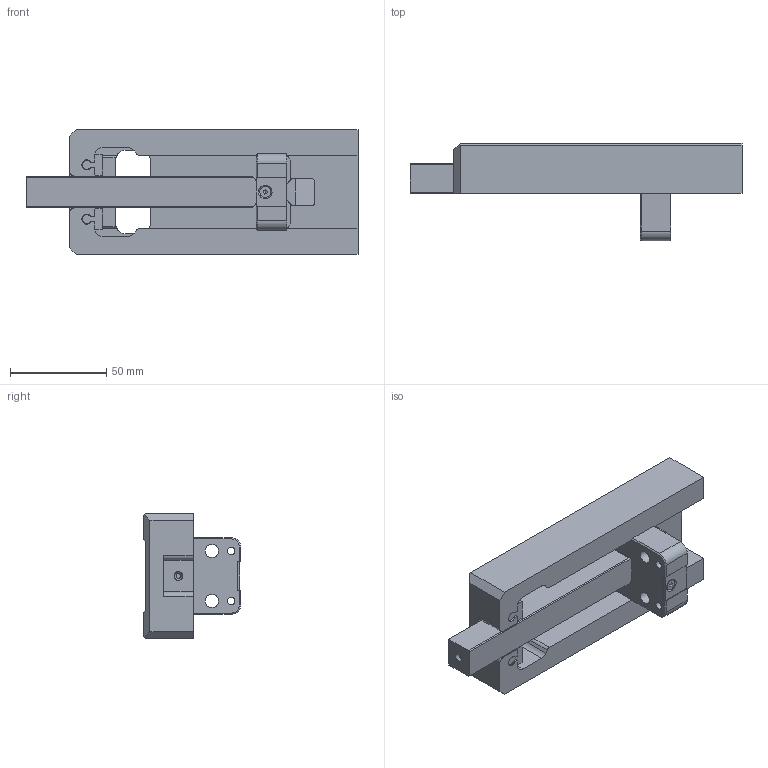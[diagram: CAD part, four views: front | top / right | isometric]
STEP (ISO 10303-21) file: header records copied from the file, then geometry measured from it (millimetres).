
FILE_DESCRIPTION (( 'STEP AP203' ), '1' );
FILE_NAME ('SA-80-150-00.step', '2015-06-16T05:09:46', ( '' ), ( '' ), 'SwSTEP 2.0', 'SolidWorks 2015', '' );
FILE_SCHEMA (( 'CONFIG_CONTROL_DESIGN' ));
Length unit declared in the file: millimetre
Products named in the file (2): SA-80-150-00
Bounding box: 172.66 x 50.7 x 65 mm (x, y, z)
Surface area: 49998.9 mm2 (no closed solid volume)
Topology: 0 solids, 12 shells, 139 faces, 492 edges, 352 vertices
Faces by surface type: plane 97, cylinder 33, cone 9
Full cylindrical faces by diameter (mm): 1.3 x2, 2.5 x1, 4 x2, 4.6 x2, 5.7 x1, 6.8 x2
Entity records: 5294 total; most frequent: CARTESIAN_POINT 1000, DIRECTION 845, ORIENTED_EDGE 775, EDGE_CURVE 474, VECTOR 361, LINE 361, VERTEX_POINT 349, AXIS2_PLACEMENT_3D 242
